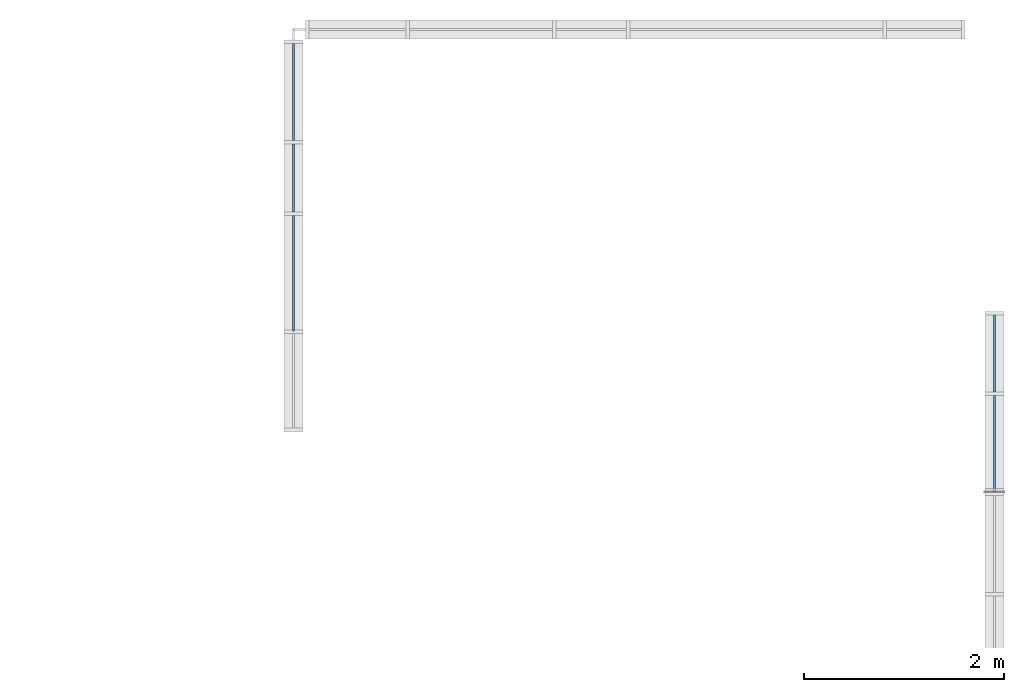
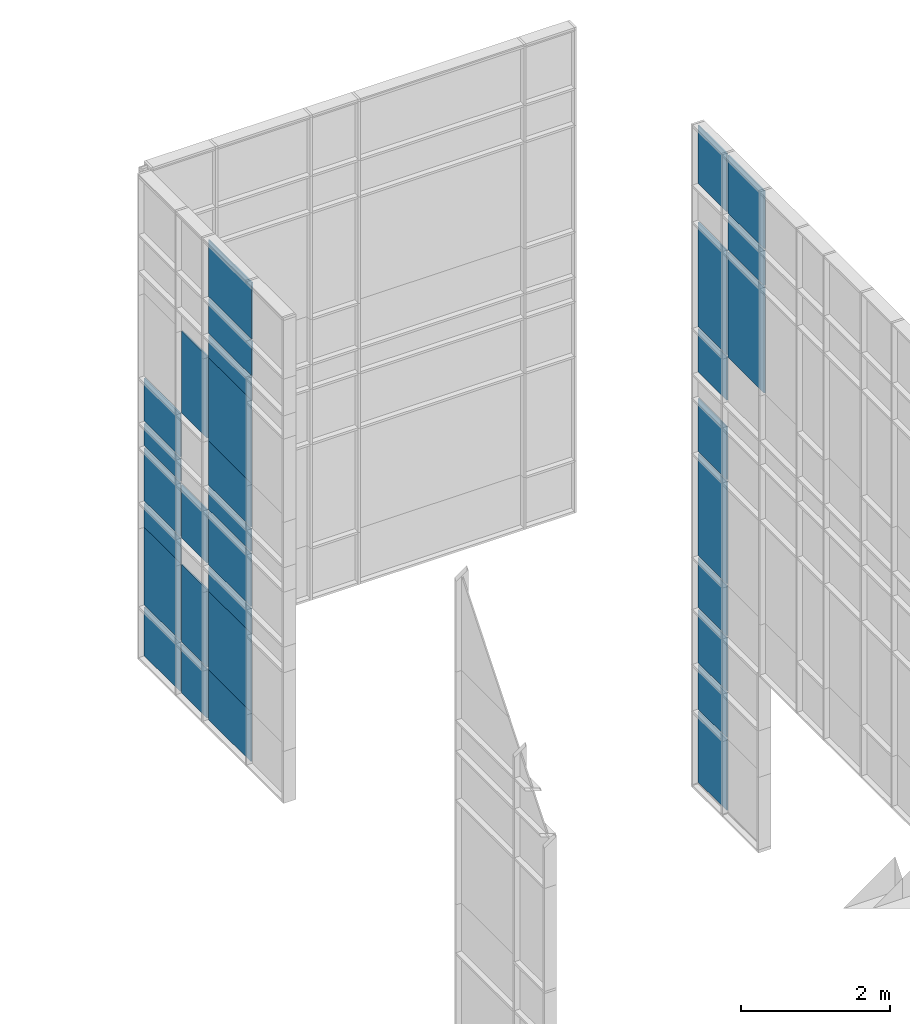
# One storey, part 35 of 73: 32 plates, 2 elements without a shape of their own.
"""IFC2X3 building model written with IfcOpenShell, lengths in millimetres."""

from ifc_helpers import new_model, entity, si_unit, converted_unit, derived_unit, direction, frame, origin, origin_2d_with_axis, place, context, subcontext, project, spatial, rectangle, extrude, source, transform, mapped, material, layer, layer_set, layer_usage, type_object, type_shapes, element, aggregate, save


model = new_model("IFC2X3")

# Units and contexts
model_context = context("Model", 3, precision=0.01, world=origin(), true_north=direction((6.12303176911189e-17, 1.0)))
body_context = subcontext(model_context, "Body", "Model", "MODEL_VIEW")
ifc_project = project(units=[si_unit("LENGTHUNIT", "METRE", prefix="MILLI"), si_unit("AREAUNIT", "SQUARE_METRE"), si_unit("VOLUMEUNIT", "CUBIC_METRE"), converted_unit("PLANEANGLEUNIT", "DEGREE", entity("IfcRatioMeasure", 0.0174532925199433), si_unit("PLANEANGLEUNIT", "RADIAN"), dimensions=[0, 0, 0, 0, 0, 0, 0]), si_unit("MASSUNIT", "GRAM", prefix="KILO"), derived_unit("MASSDENSITYUNIT", [(si_unit("MASSUNIT", "GRAM", prefix="KILO"), 1), (si_unit("LENGTHUNIT", "METRE"), -3)]), si_unit("TIMEUNIT", "SECOND"), si_unit("FREQUENCYUNIT", "HERTZ"), si_unit("THERMODYNAMICTEMPERATUREUNIT", "DEGREE_CELSIUS"), derived_unit("THERMALTRANSMITTANCEUNIT", [(si_unit("MASSUNIT", "GRAM", prefix="KILO"), 1), (si_unit("THERMODYNAMICTEMPERATUREUNIT", "KELVIN"), -1), (si_unit("TIMEUNIT", "SECOND"), -3)]), derived_unit("VOLUMETRICFLOWRATEUNIT", [(si_unit("LENGTHUNIT", "METRE"), 3), (si_unit("TIMEUNIT", "SECOND"), -1)]), si_unit("ELECTRICCURRENTUNIT", "AMPERE"), si_unit("ELECTRICVOLTAGEUNIT", "VOLT"), si_unit("POWERUNIT", "WATT"), si_unit("FORCEUNIT", "NEWTON", prefix="KILO"), si_unit("ILLUMINANCEUNIT", "LUX"), si_unit("LUMINOUSFLUXUNIT", "LUMEN"), si_unit("LUMINOUSINTENSITYUNIT", "CANDELA"), derived_unit("USERDEFINED", [(si_unit("MASSUNIT", "GRAM", prefix="KILO"), -1), (si_unit("LENGTHUNIT", "METRE"), -2), (si_unit("TIMEUNIT", "SECOND"), 3), (si_unit("LUMINOUSFLUXUNIT", "LUMEN"), 1)]), derived_unit("LINEARVELOCITYUNIT", [(si_unit("LENGTHUNIT", "METRE"), 1), (si_unit("TIMEUNIT", "SECOND"), -1)]), si_unit("PRESSUREUNIT", "PASCAL"), derived_unit("USERDEFINED", [(si_unit("LENGTHUNIT", "METRE"), -2), (si_unit("MASSUNIT", "GRAM", prefix="KILO"), 1), (si_unit("TIMEUNIT", "SECOND"), -2)])], contexts=[model_context])

# Site, building, storey
site_placement = place(None, frame((-151.875543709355, 2715.0, 0.0)))
site = spatial("IfcSite", under=ifc_project, at=site_placement, Name="Surface", CompositionType="ELEMENT")
building_placement = place(site_placement, origin())
building = spatial("IfcBuilding", under=site, at=building_placement, CompositionType="ELEMENT")
storey_placement = place(building_placement, frame((0.0, 0.0, 6730.43000000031)))
storey = spatial("IfcBuildingStorey", under=building, at=storey_placement, Name="3 korrus", CompositionType="ELEMENT", Elevation=6730.43000000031)

# Curtain wall, plates
curtain_wall_type_1 = type_object("IfcCurtainWallType", Name="Curtain Wall:Klaasfassaad", PredefinedType="NOTDEFINED")
curtain_wall_1_placement = place(storey_placement, frame((0.0, 0.0, -6730.43000000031)))
curtain_wall_1 = element("IfcCurtainWall", 1, at=curtain_wall_1_placement, inside=storey, type_object=curtain_wall_type_1, Name="Curtain Wall:Klaasfassaad", ObjectType="Curtain Wall:Klaasfassaad")
ifc_material = material(Name="<Unnamed>")
ifc_layer = layer(ifc_material, 20.0)
ifc_layer_set = layer_set([ifc_layer], Name="Curtain Wall:Klaassein KLS-01")
ifc_layer_usage_1 = layer_usage(ifc_layer_set, "AXIS3", "POSITIVE", 0.0)
plate_type_1 = type_object("IfcPlateType", Name="Glazed", PredefinedType="CURTAIN_PANEL", material=ifc_layer_set)
shared_shape_1 = source(origin(), body_context, "Body", "SweptSolid", [
    extrude(rectangle(XDim=20.0, YDim=767.500000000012, at=origin_2d_with_axis()), frame((0.0, 0.0, 0.0), z_axis=(0.0, 0.0, 1.0), x_axis=(0.0, 1.0, 0.0)), (0.0, 0.0, 1.0), 1156.92772498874),
])
type_shapes(plate_type_1, [shared_shape_1])
plate_1_placement = place(curtain_wall_1_placement, frame((38701.6162681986, 23391.7504565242, 1040.00001468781), z_axis=(0.0, 0.0, 1.0), x_axis=(0.0, 1.0, 0.0)))
plate_1 = element("IfcPlate", 2, at=plate_1_placement, type_object=plate_type_1, material=ifc_layer_usage_1, Name="System Panel:Glazed", ObjectType="Glazed", context=body_context, shape_type="MappedRepresentation", body=[
    mapped(shared_shape_1, transform((0.0, 0.0, 0.0), scale=1.0)),
])
ifc_layer_usage_2 = layer_usage(ifc_layer_set, "AXIS3", "POSITIVE", 0.0)
plate_type_2 = type_object("IfcPlateType", Name="Glazed", PredefinedType="CURTAIN_PANEL", material=ifc_layer_set)
shared_shape_2 = source(origin(), body_context, "Body", "SweptSolid", [
    extrude(rectangle(XDim=20.0, YDim=767.500000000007, at=origin_2d_with_axis()), frame((0.0, 0.0, 0.0), z_axis=(0.0, 0.0, 1.0), x_axis=(0.0, 1.0, 0.0)), (0.0, 0.0, 1.0), 725.0),
])
type_shapes(plate_type_2, [shared_shape_2])
plate_2_placement = place(curtain_wall_1_placement, frame((38701.6162681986, 23391.7504565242, 2231.92773967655), z_axis=(0.0, 0.0, 1.0), x_axis=(0.0, 1.0, 0.0)))
plate_2 = element("IfcPlate", 3, at=plate_2_placement, type_object=plate_type_2, material=ifc_layer_usage_2, Name="System Panel:Glazed", ObjectType="Glazed", context=body_context, shape_type="MappedRepresentation", body=[
    mapped(shared_shape_2, transform((0.0, 0.0, 0.0), scale=1.0)),
])
ifc_layer_usage_3 = layer_usage(ifc_layer_set, "AXIS3", "POSITIVE", 0.0)
plate_type_3 = type_object("IfcPlateType", Name="Glazed", PredefinedType="CURTAIN_PANEL", material=ifc_layer_set)
shared_shape_3 = source(origin(), body_context, "Body", "SweptSolid", [
    extrude(rectangle(XDim=20.0, YDim=767.500000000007, at=origin_2d_with_axis()), frame((0.0, 0.0, 0.0), z_axis=(0.0, 0.0, 1.0), x_axis=(0.0, 1.0, 0.0)), (0.0, 0.0, 1.0), 865.0),
])
type_shapes(plate_type_3, [shared_shape_3])
plate_3_placement = place(curtain_wall_1_placement, frame((38701.6162681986, 23391.7504565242, 2991.92773967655), z_axis=(0.0, 0.0, 1.0), x_axis=(0.0, 1.0, 0.0)))
plate_3 = element("IfcPlate", 4, at=plate_3_placement, type_object=plate_type_3, material=ifc_layer_usage_3, Name="System Panel:Glazed", ObjectType="Glazed", context=body_context, shape_type="MappedRepresentation", body=[
    mapped(shared_shape_3, transform((0.0, 0.0, 0.0), scale=1.0)),
])
ifc_layer_usage_4 = layer_usage(ifc_layer_set, "AXIS3", "POSITIVE", 0.0)
plate_4_placement = place(curtain_wall_1_placement, frame((38701.6162681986, 23391.7504565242, 6442.40692901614), z_axis=(0.0, 0.0, 1.0), x_axis=(0.0, 1.0, 0.0)))
plate_4 = element("IfcPlate", 5, at=plate_4_placement, type_object=plate_type_3, material=ifc_layer_usage_4, Name="System Panel:Glazed", ObjectType="Glazed", context=body_context, shape_type="MappedRepresentation", body=[
    mapped(shared_shape_3, transform((0.0, 0.0, 0.0), scale=1.0)),
])
ifc_layer_usage_5 = layer_usage(ifc_layer_set, "AXIS3", "POSITIVE", 0.0)
plate_type_4 = type_object("IfcPlateType", Name="Glazed", PredefinedType="CURTAIN_PANEL", material=ifc_layer_set)
shared_shape_4 = source(origin(), body_context, "Body", "SweptSolid", [
    extrude(rectangle(XDim=20.0, YDim=767.500000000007, at=origin_2d_with_axis()), frame((0.0, 0.0, 0.0), z_axis=(0.0, 0.0, 1.0), x_axis=(0.0, 1.0, 0.0)), (0.0, 0.0, 1.0), 815.159729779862),
])
type_shapes(plate_type_4, [shared_shape_4])
plate_5_placement = place(curtain_wall_1_placement, frame((38701.6162681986, 23391.7504565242, 3891.92773967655), z_axis=(0.0, 0.0, 1.0), x_axis=(0.0, 1.0, 0.0)))
plate_5 = element("IfcPlate", 6, at=plate_5_placement, type_object=plate_type_4, material=ifc_layer_usage_5, Name="System Panel:Glazed", ObjectType="Glazed", context=body_context, shape_type="MappedRepresentation", body=[
    mapped(shared_shape_4, transform((0.0, 0.0, 0.0), scale=1.0)),
])
ifc_layer_usage_6 = layer_usage(ifc_layer_set, "AXIS3", "POSITIVE", 0.0)
plate_type_5 = type_object("IfcPlateType", Name="Glazed", PredefinedType="CURTAIN_PANEL", material=ifc_layer_set)
shared_shape_5 = source(origin(), body_context, "Body", "SweptSolid", [
    extrude(rectangle(XDim=20.0, YDim=767.500000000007, at=origin_2d_with_axis()), frame((0.0, 0.0, 0.0), z_axis=(0.0, 0.0, 1.0), x_axis=(0.0, 1.0, 0.0)), (0.0, 0.0, 1.0), 1665.31945955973),
])
type_shapes(plate_type_5, [shared_shape_5])
plate_6_placement = place(curtain_wall_1_placement, frame((38701.6162681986, 23391.7504565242, 4742.08746945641), z_axis=(0.0, 0.0, 1.0), x_axis=(0.0, 1.0, 0.0)))
plate_6 = element("IfcPlate", 7, at=plate_6_placement, type_object=plate_type_5, material=ifc_layer_usage_6, Name="System Panel:Glazed", ObjectType="Glazed", context=body_context, shape_type="MappedRepresentation", body=[
    mapped(shared_shape_5, transform((0.0, 0.0, 0.0), scale=1.0)),
])
ifc_layer_usage_7 = layer_usage(ifc_layer_set, "AXIS3", "POSITIVE", 0.0)
plate_type_6 = type_object("IfcPlateType", Name="Glazed", PredefinedType="CURTAIN_PANEL", material=ifc_layer_set)
shared_shape_6 = source(origin(), body_context, "Body", "SweptSolid", [
    extrude(rectangle(XDim=20.0, YDim=767.500000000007, at=origin_2d_with_axis()), frame((0.0, 0.0, 0.0), z_axis=(0.0, 0.0, 1.0), x_axis=(0.0, 1.0, 0.0)), (0.0, 0.0, 1.0), 705.0),
])
type_shapes(plate_type_6, [shared_shape_6])
plate_7_placement = place(curtain_wall_1_placement, frame((38701.6162681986, 23391.7504565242, 7742.40692901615), z_axis=(0.0, 0.0, 1.0), x_axis=(0.0, 1.0, 0.0)))
plate_7 = element("IfcPlate", 8, at=plate_7_placement, type_object=plate_type_6, material=ifc_layer_usage_7, Name="System Panel:Glazed", ObjectType="Glazed", context=body_context, shape_type="MappedRepresentation", body=[
    mapped(shared_shape_6, transform((0.0, 0.0, 0.0), scale=1.0)),
])
ifc_layer_usage_8 = layer_usage(ifc_layer_set, "AXIS3", "POSITIVE", 0.0)
plate_type_7 = type_object("IfcPlateType", Name="Glazed", PredefinedType="CURTAIN_PANEL", material=ifc_layer_set)
shared_shape_7 = source(origin(), body_context, "Body", "SweptSolid", [
    extrude(rectangle(XDim=20.0, YDim=964.999999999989, at=origin_2d_with_axis()), frame((0.0, 0.0, 0.0), z_axis=(0.0, 0.0, 1.0), x_axis=(0.0, 1.0, 0.0)), (0.0, 0.0, 1.0), 1722.5),
])
type_shapes(plate_type_7, [shared_shape_7])
plate_8_placement = place(curtain_wall_1_placement, frame((38701.6162681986, 22490.5004565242, 8464.90692901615), z_axis=(0.0, 0.0, 1.0), x_axis=(0.0, 1.0, 0.0)))
plate_8 = element("IfcPlate", 9, at=plate_8_placement, type_object=plate_type_7, material=ifc_layer_usage_8, Name="System Panel:Glazed", ObjectType="Glazed", context=body_context, shape_type="MappedRepresentation", body=[
    mapped(shared_shape_7, transform((0.0, 0.0, 0.0), scale=1.0)),
])
ifc_layer_usage_9 = layer_usage(ifc_layer_set, "AXIS3", "POSITIVE", 0.0)
plate_type_8 = type_object("IfcPlateType", Name="Glazed", PredefinedType="CURTAIN_PANEL", material=ifc_layer_set)
shared_shape_8 = source(origin(), body_context, "Body", "SweptSolid", [
    extrude(rectangle(XDim=20.0, YDim=767.500000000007, at=origin_2d_with_axis()), frame((0.0, 0.0, 0.0), z_axis=(0.0, 0.0, 1.0), x_axis=(0.0, 1.0, 0.0)), (0.0, 0.0, 1.0), 1705.0),
])
type_shapes(plate_type_8, [shared_shape_8])
plate_9_placement = place(curtain_wall_1_placement, frame((38701.6162681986, 23391.7504565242, 8482.40692901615), z_axis=(0.0, 0.0, 1.0), x_axis=(0.0, 1.0, 0.0)))
plate_9 = element("IfcPlate", 10, at=plate_9_placement, type_object=plate_type_8, material=ifc_layer_usage_9, Name="System Panel:Glazed", ObjectType="Glazed", context=body_context, shape_type="MappedRepresentation", body=[
    mapped(shared_shape_8, transform((0.0, 0.0, 0.0), scale=1.0)),
])
ifc_layer_usage_10 = layer_usage(ifc_layer_set, "AXIS3", "POSITIVE", 0.0)
plate_type_9 = type_object("IfcPlateType", Name="Glazed", PredefinedType="CURTAIN_PANEL", material=ifc_layer_set)
shared_shape_9 = source(origin(), body_context, "Body", "SweptSolid", [
    extrude(rectangle(XDim=20.0, YDim=964.999999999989, at=origin_2d_with_axis()), frame((0.0, 0.0, 0.0), z_axis=(0.0, 0.0, 1.0), x_axis=(0.0, 1.0, 0.0)), (0.0, 0.0, 1.0), 564.999999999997),
])
type_shapes(plate_type_9, [shared_shape_9])
plate_10_placement = place(curtain_wall_1_placement, frame((38701.6162681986, 22490.5004565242, 10222.4069290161), z_axis=(0.0, 0.0, 1.0), x_axis=(0.0, 1.0, 0.0)))
plate_10 = element("IfcPlate", 11, at=plate_10_placement, type_object=plate_type_9, material=ifc_layer_usage_10, Name="System Panel:Glazed", ObjectType="Glazed", context=body_context, shape_type="MappedRepresentation", body=[
    mapped(shared_shape_9, transform((0.0, 0.0, 0.0), scale=1.0)),
])
ifc_layer_usage_11 = layer_usage(ifc_layer_set, "AXIS3", "POSITIVE", 0.0)
plate_type_10 = type_object("IfcPlateType", Name="Glazed", PredefinedType="CURTAIN_PANEL", material=ifc_layer_set)
shared_shape_10 = source(origin(), body_context, "Body", "SweptSolid", [
    extrude(rectangle(XDim=20.0, YDim=964.999999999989, at=origin_2d_with_axis()), frame((0.0, 0.0, 0.0), z_axis=(0.0, 0.0, 1.0), x_axis=(0.0, 1.0, 0.0)), (0.0, 0.0, 1.0), 947.500000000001),
])
type_shapes(plate_type_10, [shared_shape_10])
plate_11_placement = place(curtain_wall_1_placement, frame((38701.6162681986, 22490.5004565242, 10822.4069290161), z_axis=(0.0, 0.0, 1.0), x_axis=(0.0, 1.0, 0.0)))
plate_11 = element("IfcPlate", 12, at=plate_11_placement, type_object=plate_type_10, material=ifc_layer_usage_11, Name="System Panel:Glazed", ObjectType="Glazed", context=body_context, shape_type="MappedRepresentation", body=[
    mapped(shared_shape_10, transform((0.0, 0.0, 0.0), scale=1.0)),
])
ifc_layer_usage_12 = layer_usage(ifc_layer_set, "AXIS3", "POSITIVE", 0.0)
plate_type_11 = type_object("IfcPlateType", Name="Glazed", PredefinedType="CURTAIN_PANEL", material=ifc_layer_set)
shared_shape_11 = source(origin(), body_context, "Body", "SweptSolid", [
    extrude(rectangle(XDim=20.0, YDim=767.500000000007, at=origin_2d_with_axis()), frame((0.0, 0.0, 0.0), z_axis=(0.0, 0.0, 1.0), x_axis=(0.0, 1.0, 0.0)), (0.0, 0.0, 1.0), 947.500000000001),
])
type_shapes(plate_type_11, [shared_shape_11])
plate_12_placement = place(curtain_wall_1_placement, frame((38701.6162681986, 23391.7504565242, 10822.4069290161), z_axis=(0.0, 0.0, 1.0), x_axis=(0.0, 1.0, 0.0)))
plate_12 = element("IfcPlate", 13, at=plate_12_placement, type_object=plate_type_11, material=ifc_layer_usage_12, Name="System Panel:Glazed", ObjectType="Glazed", context=body_context, shape_type="MappedRepresentation", body=[
    mapped(shared_shape_11, transform((0.0, 0.0, 0.0), scale=1.0)),
])
aggregate(curtain_wall_1, [plate_1, plate_2, plate_3, plate_5, plate_6, plate_4, plate_7, plate_8, plate_9, plate_10, plate_11, plate_12])

curtain_wall_type_2 = type_object("IfcCurtainWallType", Name="Curtain Wall:Klaasfassaad2", PredefinedType="NOTDEFINED")
curtain_wall_2_placement = place(storey_placement, frame((0.0, 0.0, -6730.43000000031)))
curtain_wall_2 = element("IfcCurtainWall", 14, at=curtain_wall_2_placement, inside=storey, type_object=curtain_wall_type_2, Name="Curtain Wall:Klaasfassaad2", ObjectType="Curtain Wall:Klaasfassaad2")
ifc_layer_usage_13 = layer_usage(ifc_layer_set, "AXIS3", "POSITIVE", 0.0)
plate_type_12 = type_object("IfcPlateType", Name="Glazed", PredefinedType="CURTAIN_PANEL", material=ifc_layer_set)
shared_shape_12 = source(origin(), body_context, "Body", "SweptSolid", [
    extrude(rectangle(XDim=20.0, YDim=964.999999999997, at=origin_2d_with_axis()), frame((0.0, 0.0, 0.0), z_axis=(0.0, 0.0, 1.0), x_axis=(0.0, 1.0, 0.0)), (0.0, 0.0, 1.0), 797.659729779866),
])
type_shapes(plate_type_12, [shared_shape_12])
plate_13_placement = place(curtain_wall_2_placement, frame((31707.6162682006, 26001.1813631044, 3909.42773967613), z_axis=(0.0, 0.0, 1.0), x_axis=(0.0, 1.0, 0.0)))
plate_13 = element("IfcPlate", 15, at=plate_13_placement, type_object=plate_type_12, material=ifc_layer_usage_13, Name="System Panel:Glazed", ObjectType="Glazed", context=body_context, shape_type="MappedRepresentation", body=[
    mapped(shared_shape_12, transform((0.0, 0.0, 0.0), scale=1.0)),
])
ifc_layer_usage_14 = layer_usage(ifc_layer_set, "AXIS3", "POSITIVE", 0.0)
plate_type_13 = type_object("IfcPlateType", Name="Glazed", PredefinedType="CURTAIN_PANEL", material=ifc_layer_set)
shared_shape_13 = source(origin(), body_context, "Body", "SweptSolid", [
    extrude(rectangle(XDim=20.0, YDim=964.999999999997, at=origin_2d_with_axis()), frame((0.0, 0.0, 0.0), z_axis=(0.0, 0.0, 1.0), x_axis=(0.0, 1.0, 0.0)), (0.0, 0.0, 1.0), 865.000000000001),
])
type_shapes(plate_type_13, [shared_shape_13])
plate_14_placement = place(curtain_wall_2_placement, frame((31707.6162682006, 26001.1813631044, 6442.40692901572), z_axis=(0.0, 0.0, 1.0), x_axis=(0.0, 1.0, 0.0)))
plate_14 = element("IfcPlate", 16, at=plate_14_placement, type_object=plate_type_13, material=ifc_layer_usage_14, Name="System Panel:Glazed", ObjectType="Glazed", context=body_context, shape_type="MappedRepresentation", body=[
    mapped(shared_shape_13, transform((0.0, 0.0, 0.0), scale=1.0)),
])
ifc_layer_usage_15 = layer_usage(ifc_layer_set, "AXIS3", "POSITIVE", 0.0)
plate_type_14 = type_object("IfcPlateType", Name="Glazed", PredefinedType="CURTAIN_PANEL", material=ifc_layer_set)
shared_shape_14 = source(origin(), body_context, "Body", "SweptSolid", [
    extrude(rectangle(XDim=20.0, YDim=964.999999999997, at=origin_2d_with_axis()), frame((0.0, 0.0, 0.0), z_axis=(0.0, 0.0, 1.0), x_axis=(0.0, 1.0, 0.0)), (0.0, 0.0, 1.0), 365.0),
])
type_shapes(plate_type_14, [shared_shape_14])
plate_15_placement = place(curtain_wall_2_placement, frame((31707.6162682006, 26001.1813631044, 7342.40692901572), z_axis=(0.0, 0.0, 1.0), x_axis=(0.0, 1.0, 0.0)))
plate_15 = element("IfcPlate", 17, at=plate_15_placement, type_object=plate_type_14, material=ifc_layer_usage_15, Name="System Panel:Glazed", ObjectType="Glazed", context=body_context, shape_type="MappedRepresentation", body=[
    mapped(shared_shape_14, transform((0.0, 0.0, 0.0), scale=1.0)),
])
ifc_layer_usage_16 = layer_usage(ifc_layer_set, "AXIS3", "POSITIVE", 0.0)
plate_type_15 = type_object("IfcPlateType", Name="Glazed", PredefinedType="CURTAIN_PANEL", material=ifc_layer_set)
shared_shape_15 = source(origin(), body_context, "Body", "SweptSolid", [
    extrude(rectangle(XDim=20.0, YDim=964.999999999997, at=origin_2d_with_axis()), frame((0.0, 0.0, 0.0), z_axis=(0.0, 0.0, 1.0), x_axis=(0.0, 1.0, 0.0)), (0.0, 0.0, 1.0), 705.000000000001),
])
type_shapes(plate_type_15, [shared_shape_15])
plate_16_placement = place(curtain_wall_2_placement, frame((31707.6162682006, 26001.1813631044, 7742.40692901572), z_axis=(0.0, 0.0, 1.0), x_axis=(0.0, 1.0, 0.0)))
plate_16 = element("IfcPlate", 18, at=plate_16_placement, type_object=plate_type_15, material=ifc_layer_usage_16, Name="System Panel:Glazed", ObjectType="Glazed", context=body_context, shape_type="MappedRepresentation", body=[
    mapped(shared_shape_15, transform((0.0, 0.0, 0.0), scale=1.0)),
])
ifc_layer_usage_17 = layer_usage(ifc_layer_set, "AXIS3", "POSITIVE", 0.0)
plate_type_16 = type_object("IfcPlateType", Name="Glazed", PredefinedType="CURTAIN_PANEL", material=ifc_layer_set)
shared_shape_16 = source(origin(), body_context, "Body", "SweptSolid", [
    extrude(rectangle(XDim=20.0, YDim=1141.18136310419, at=origin_2d_with_axis()), frame((0.0, 0.0, 0.0), z_axis=(0.0, 0.0, 1.0), x_axis=(0.0, 1.0, 0.0)), (0.0, 0.0, 1.0), 815.159729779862),
])
type_shapes(plate_type_16, [shared_shape_16])
plate_17_placement = place(curtain_wall_2_placement, frame((31707.6162682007, 24198.0906815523, 3909.42773967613), z_axis=(0.0, 0.0, 1.0), x_axis=(0.0, 1.0, 0.0)))
plate_17 = element("IfcPlate", 19, at=plate_17_placement, type_object=plate_type_16, material=ifc_layer_usage_17, Name="System Panel:Glazed", ObjectType="Glazed", context=body_context, shape_type="MappedRepresentation", body=[
    mapped(shared_shape_16, transform((0.0, 0.0, 0.0), scale=1.0)),
])
ifc_layer_usage_18 = layer_usage(ifc_layer_set, "AXIS3", "POSITIVE", 0.0)
plate_type_17 = type_object("IfcPlateType", Name="Glazed", PredefinedType="CURTAIN_PANEL", material=ifc_layer_set)
shared_shape_17 = source(origin(), body_context, "Body", "SweptSolid", [
    extrude(rectangle(XDim=20.0, YDim=679.999999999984, at=origin_2d_with_axis()), frame((0.0, 0.0, 0.0), z_axis=(0.0, 0.0, 1.0), x_axis=(0.0, 1.0, 0.0)), (0.0, 0.0, 1.0), 797.659729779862),
])
type_shapes(plate_type_17, [shared_shape_17])
plate_18_placement = place(curtain_wall_2_placement, frame((31707.6162682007, 25143.6813631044, 3909.42773967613), z_axis=(0.0, 0.0, 1.0), x_axis=(0.0, 1.0, 0.0)))
plate_18 = element("IfcPlate", 20, at=plate_18_placement, type_object=plate_type_17, material=ifc_layer_usage_18, Name="System Panel:Glazed", ObjectType="Glazed", context=body_context, shape_type="MappedRepresentation", body=[
    mapped(shared_shape_17, transform((0.0, 0.0, 0.0), scale=1.0)),
])
ifc_layer_usage_19 = layer_usage(ifc_layer_set, "AXIS3", "POSITIVE", 0.0)
plate_type_18 = type_object("IfcPlateType", Name="Glazed", PredefinedType="CURTAIN_PANEL", material=ifc_layer_set)
shared_shape_18 = source(origin(), body_context, "Body", "SweptSolid", [
    extrude(rectangle(XDim=20.0, YDim=1141.18136310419, at=origin_2d_with_axis()), frame((0.0, 0.0, 0.0), z_axis=(0.0, 0.0, 1.0), x_axis=(0.0, 1.0, 0.0)), (0.0, 0.0, 1.0), 1284.84027022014),
])
type_shapes(plate_type_18, [shared_shape_18])
plate_19_placement = place(curtain_wall_2_placement, frame((31707.6162682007, 24198.0906815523, 4724.58746945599), z_axis=(0.0, 0.0, 1.0), x_axis=(0.0, 1.0, 0.0)))
plate_19 = element("IfcPlate", 21, at=plate_19_placement, type_object=plate_type_18, material=ifc_layer_usage_19, Name="System Panel:Glazed", ObjectType="Glazed", context=body_context, shape_type="MappedRepresentation", body=[
    mapped(shared_shape_18, transform((0.0, 0.0, 0.0), scale=1.0)),
])
ifc_layer_usage_20 = layer_usage(ifc_layer_set, "AXIS3", "POSITIVE", 0.0)
plate_type_19 = type_object("IfcPlateType", Name="Glazed", PredefinedType="CURTAIN_PANEL", material=ifc_layer_set)
shared_shape_19 = source(origin(), body_context, "Body", "SweptSolid", [
    extrude(rectangle(XDim=20.0, YDim=679.999999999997, at=origin_2d_with_axis()), frame((0.0, 0.0, 0.0), z_axis=(0.0, 0.0, 1.0), x_axis=(0.0, 1.0, 0.0)), (0.0, 0.0, 1.0), 1267.34027022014),
])
type_shapes(plate_type_19, [shared_shape_19])
plate_20_placement = place(curtain_wall_2_placement, frame((31707.6162682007, 25143.6813631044, 4742.08746945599), z_axis=(0.0, 0.0, 1.0), x_axis=(0.0, 1.0, 0.0)))
plate_20 = element("IfcPlate", 22, at=plate_20_placement, type_object=plate_type_19, material=ifc_layer_usage_20, Name="System Panel:Glazed", ObjectType="Glazed", context=body_context, shape_type="MappedRepresentation", body=[
    mapped(shared_shape_19, transform((0.0, 0.0, 0.0), scale=1.0)),
])
ifc_layer_usage_21 = layer_usage(ifc_layer_set, "AXIS3", "POSITIVE", 0.0)
plate_type_20 = type_object("IfcPlateType", Name="Glazed", PredefinedType="CURTAIN_PANEL", material=ifc_layer_set)
shared_shape_20 = source(origin(), body_context, "Body", "SweptSolid", [
    extrude(rectangle(XDim=20.0, YDim=964.999999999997, at=origin_2d_with_axis()), frame((0.0, 0.0, 0.0), z_axis=(0.0, 0.0, 1.0), x_axis=(0.0, 1.0, 0.0)), (0.0, 0.0, 1.0), 1267.34027022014),
])
type_shapes(plate_type_20, [shared_shape_20])
plate_21_placement = place(curtain_wall_2_placement, frame((31707.6162682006, 26001.1813631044, 4742.08746945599), z_axis=(0.0, 0.0, 1.0), x_axis=(0.0, 1.0, 0.0)))
plate_21 = element("IfcPlate", 23, at=plate_21_placement, type_object=plate_type_20, material=ifc_layer_usage_21, Name="System Panel:Glazed", ObjectType="Glazed", context=body_context, shape_type="MappedRepresentation", body=[
    mapped(shared_shape_20, transform((0.0, 0.0, 0.0), scale=1.0)),
])
ifc_layer_usage_22 = layer_usage(ifc_layer_set, "AXIS3", "POSITIVE", 0.0)
plate_type_21 = type_object("IfcPlateType", Name="Glazed", PredefinedType="CURTAIN_PANEL", material=ifc_layer_set)
shared_shape_21 = source(origin(), body_context, "Body", "SweptSolid", [
    extrude(rectangle(XDim=20.0, YDim=1141.18136310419, at=origin_2d_with_axis()), frame((0.0, 0.0, 0.0), z_axis=(0.0, 0.0, 1.0), x_axis=(0.0, 1.0, 0.0)), (0.0, 0.0, 1.0), 397.979189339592),
])
type_shapes(plate_type_21, [shared_shape_21])
plate_22_placement = place(curtain_wall_2_placement, frame((31707.6162682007, 24198.0906815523, 6009.42773967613), z_axis=(0.0, 0.0, 1.0), x_axis=(0.0, 1.0, 0.0)))
plate_22 = element("IfcPlate", 24, at=plate_22_placement, type_object=plate_type_21, material=ifc_layer_usage_22, Name="System Panel:Glazed", ObjectType="Glazed", context=body_context, shape_type="MappedRepresentation", body=[
    mapped(shared_shape_21, transform((0.0, 0.0, 0.0), scale=1.0)),
])
ifc_layer_usage_23 = layer_usage(ifc_layer_set, "AXIS3", "POSITIVE", 0.0)
plate_type_22 = type_object("IfcPlateType", Name="Glazed", PredefinedType="CURTAIN_PANEL", material=ifc_layer_set)
shared_shape_22 = source(origin(), body_context, "Body", "SweptSolid", [
    extrude(rectangle(XDim=20.0, YDim=964.999999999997, at=origin_2d_with_axis()), frame((0.0, 0.0, 0.0), z_axis=(0.0, 0.0, 1.0), x_axis=(0.0, 1.0, 0.0)), (0.0, 0.0, 1.0), 397.979189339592),
])
type_shapes(plate_type_22, [shared_shape_22])
plate_23_placement = place(curtain_wall_2_placement, frame((31707.6162682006, 26001.1813631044, 6009.42773967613), z_axis=(0.0, 0.0, 1.0), x_axis=(0.0, 1.0, 0.0)))
plate_23 = element("IfcPlate", 25, at=plate_23_placement, type_object=plate_type_22, material=ifc_layer_usage_23, Name="System Panel:Glazed", ObjectType="Glazed", context=body_context, shape_type="MappedRepresentation", body=[
    mapped(shared_shape_22, transform((0.0, 0.0, 0.0), scale=1.0)),
])
ifc_layer_usage_24 = layer_usage(ifc_layer_set, "AXIS3", "POSITIVE", 0.0)
plate_type_23 = type_object("IfcPlateType", Name="Glazed", PredefinedType="CURTAIN_PANEL", material=ifc_layer_set)
shared_shape_23 = source(origin(), body_context, "Body", "SweptSolid", [
    extrude(rectangle(XDim=20.0, YDim=1141.18136310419, at=origin_2d_with_axis()), frame((0.0, 0.0, 0.0), z_axis=(0.0, 0.0, 1.0), x_axis=(0.0, 1.0, 0.0)), (0.0, 0.0, 1.0), 865.0),
])
type_shapes(plate_type_23, [shared_shape_23])
plate_24_placement = place(curtain_wall_2_placement, frame((31707.6162682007, 24198.0906815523, 6442.40692901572), z_axis=(0.0, 0.0, 1.0), x_axis=(0.0, 1.0, 0.0)))
plate_24 = element("IfcPlate", 26, at=plate_24_placement, type_object=plate_type_23, material=ifc_layer_usage_24, Name="System Panel:Glazed", ObjectType="Glazed", context=body_context, shape_type="MappedRepresentation", body=[
    mapped(shared_shape_23, transform((0.0, 0.0, 0.0), scale=1.0)),
])
ifc_layer_usage_25 = layer_usage(ifc_layer_set, "AXIS3", "POSITIVE", 0.0)
plate_type_24 = type_object("IfcPlateType", Name="Glazed", PredefinedType="CURTAIN_PANEL", material=ifc_layer_set)
shared_shape_24 = source(origin(), body_context, "Body", "SweptSolid", [
    extrude(rectangle(XDim=20.0, YDim=679.999999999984, at=origin_2d_with_axis()), frame((0.0, 0.0, 0.0), z_axis=(0.0, 0.0, 1.0), x_axis=(0.0, 1.0, 0.0)), (0.0, 0.0, 1.0), 864.999999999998),
])
type_shapes(plate_type_24, [shared_shape_24])
plate_25_placement = place(curtain_wall_2_placement, frame((31707.6162682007, 25143.6813631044, 6442.40692901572), z_axis=(0.0, 0.0, 1.0), x_axis=(0.0, 1.0, 0.0)))
plate_25 = element("IfcPlate", 27, at=plate_25_placement, type_object=plate_type_24, material=ifc_layer_usage_25, Name="System Panel:Glazed", ObjectType="Glazed", context=body_context, shape_type="MappedRepresentation", body=[
    mapped(shared_shape_24, transform((0.0, 0.0, 0.0), scale=1.0)),
])
ifc_layer_usage_26 = layer_usage(ifc_layer_set, "AXIS3", "POSITIVE", 0.0)
plate_type_25 = type_object("IfcPlateType", Name="Glazed", PredefinedType="CURTAIN_PANEL", material=ifc_layer_set)
shared_shape_25 = source(origin(), body_context, "Body", "SweptSolid", [
    extrude(rectangle(XDim=20.0, YDim=1141.18136310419, at=origin_2d_with_axis()), frame((0.0, 0.0, 0.0), z_axis=(0.0, 0.0, 1.0), x_axis=(0.0, 1.0, 0.0)), (0.0, 0.0, 1.0), 365.0),
])
type_shapes(plate_type_25, [shared_shape_25])
plate_26_placement = place(curtain_wall_2_placement, frame((31707.6162682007, 24198.0906815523, 7342.40692901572), z_axis=(0.0, 0.0, 1.0), x_axis=(0.0, 1.0, 0.0)))
plate_26 = element("IfcPlate", 28, at=plate_26_placement, type_object=plate_type_25, material=ifc_layer_usage_26, Name="System Panel:Glazed", ObjectType="Glazed", context=body_context, shape_type="MappedRepresentation", body=[
    mapped(shared_shape_25, transform((0.0, 0.0, 0.0), scale=1.0)),
])
ifc_layer_usage_27 = layer_usage(ifc_layer_set, "AXIS3", "POSITIVE", 0.0)
plate_type_26 = type_object("IfcPlateType", Name="Glazed", PredefinedType="CURTAIN_PANEL", material=ifc_layer_set)
shared_shape_26 = source(origin(), body_context, "Body", "SweptSolid", [
    extrude(rectangle(XDim=20.0, YDim=1141.18136310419, at=origin_2d_with_axis()), frame((0.0, 0.0, 0.0), z_axis=(0.0, 0.0, 1.0), x_axis=(0.0, 1.0, 0.0)), (0.0, 0.0, 1.0), 722.5),
])
type_shapes(plate_type_26, [shared_shape_26])
plate_27_placement = place(curtain_wall_2_placement, frame((31707.6162682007, 24198.0906815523, 7742.40692901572), z_axis=(0.0, 0.0, 1.0), x_axis=(0.0, 1.0, 0.0)))
plate_27 = element("IfcPlate", 29, at=plate_27_placement, type_object=plate_type_26, material=ifc_layer_usage_27, Name="System Panel:Glazed", ObjectType="Glazed", context=body_context, shape_type="MappedRepresentation", body=[
    mapped(shared_shape_26, transform((0.0, 0.0, 0.0), scale=1.0)),
])
ifc_layer_usage_28 = layer_usage(ifc_layer_set, "AXIS3", "POSITIVE", 0.0)
plate_type_27 = type_object("IfcPlateType", Name="Glazed", PredefinedType="CURTAIN_PANEL", material=ifc_layer_set)
shared_shape_27 = source(origin(), body_context, "Body", "SweptSolid", [
    extrude(rectangle(XDim=20.0, YDim=1141.18136310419, at=origin_2d_with_axis()), frame((0.0, 0.0, 0.0), z_axis=(0.0, 0.0, 1.0), x_axis=(0.0, 1.0, 0.0)), (0.0, 0.0, 1.0), 1360.0),
])
type_shapes(plate_type_27, [shared_shape_27])
plate_28_placement = place(curtain_wall_2_placement, frame((31707.6162682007, 24198.0906815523, 8464.90692901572), z_axis=(0.0, 0.0, 1.0), x_axis=(0.0, 1.0, 0.0)))
plate_28 = element("IfcPlate", 30, at=plate_28_placement, type_object=plate_type_27, material=ifc_layer_usage_28, Name="System Panel:Glazed", ObjectType="Glazed", context=body_context, shape_type="MappedRepresentation", body=[
    mapped(shared_shape_27, transform((0.0, 0.0, 0.0), scale=1.0)),
])
ifc_layer_usage_29 = layer_usage(ifc_layer_set, "AXIS3", "POSITIVE", 0.0)
plate_type_28 = type_object("IfcPlateType", Name="Glazed", PredefinedType="CURTAIN_PANEL", material=ifc_layer_set)
shared_shape_28 = source(origin(), body_context, "Body", "SweptSolid", [
    extrude(rectangle(XDim=20.0, YDim=679.999999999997, at=origin_2d_with_axis()), frame((0.0, 0.0, 0.0), z_axis=(0.0, 0.0, 1.0), x_axis=(0.0, 1.0, 0.0)), (0.0, 0.0, 1.0), 1342.5),
])
type_shapes(plate_type_28, [shared_shape_28])
plate_29_placement = place(curtain_wall_2_placement, frame((31707.6162682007, 25143.6813631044, 8482.40692901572), z_axis=(0.0, 0.0, 1.0), x_axis=(0.0, 1.0, 0.0)))
plate_29 = element("IfcPlate", 31, at=plate_29_placement, type_object=plate_type_28, material=ifc_layer_usage_29, Name="System Panel:Glazed", ObjectType="Glazed", context=body_context, shape_type="MappedRepresentation", body=[
    mapped(shared_shape_28, transform((0.0, 0.0, 0.0), scale=1.0)),
])
ifc_layer_usage_30 = layer_usage(ifc_layer_set, "AXIS3", "POSITIVE", 0.0)
plate_type_29 = type_object("IfcPlateType", Name="Glazed", PredefinedType="CURTAIN_PANEL", material=ifc_layer_set)
shared_shape_29 = source(origin(), body_context, "Body", "SweptSolid", [
    extrude(rectangle(XDim=20.0, YDim=1141.18136310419, at=origin_2d_with_axis()), frame((0.0, 0.0, 0.0), z_axis=(0.0, 0.0, 1.0), x_axis=(0.0, 1.0, 0.0)), (0.0, 0.0, 1.0), 362.5),
])
type_shapes(plate_type_29, [shared_shape_29])
plate_30_placement = place(curtain_wall_2_placement, frame((31707.6162682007, 24198.0906815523, 9824.90692901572), z_axis=(0.0, 0.0, 1.0), x_axis=(0.0, 1.0, 0.0)))
plate_30 = element("IfcPlate", 32, at=plate_30_placement, type_object=plate_type_29, material=ifc_layer_usage_30, Name="System Panel:Glazed", ObjectType="Glazed", context=body_context, shape_type="MappedRepresentation", body=[
    mapped(shared_shape_29, transform((0.0, 0.0, 0.0), scale=1.0)),
])
ifc_layer_usage_31 = layer_usage(ifc_layer_set, "AXIS3", "POSITIVE", 0.0)
plate_type_30 = type_object("IfcPlateType", Name="Glazed", PredefinedType="CURTAIN_PANEL", material=ifc_layer_set)
shared_shape_30 = source(origin(), body_context, "Body", "SweptSolid", [
    extrude(rectangle(XDim=20.0, YDim=1158.6813631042, at=origin_2d_with_axis()), frame((0.0, 0.0, 0.0), z_axis=(0.0, 0.0, 1.0), x_axis=(0.0, 1.0, 0.0)), (0.0, 0.0, 1.0), 565.000000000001),
])
type_shapes(plate_type_30, [shared_shape_30])
plate_31_placement = place(curtain_wall_2_placement, frame((31707.6162682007, 24189.3406815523, 10222.4069290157), z_axis=(0.0, 0.0, 1.0), x_axis=(0.0, 1.0, 0.0)))
plate_31 = element("IfcPlate", 33, at=plate_31_placement, type_object=plate_type_30, material=ifc_layer_usage_31, Name="System Panel:Glazed", ObjectType="Glazed", context=body_context, shape_type="MappedRepresentation", body=[
    mapped(shared_shape_30, transform((0.0, 0.0, 0.0), scale=1.0)),
])
ifc_layer_usage_32 = layer_usage(ifc_layer_set, "AXIS3", "POSITIVE", 0.0)
plate_type_31 = type_object("IfcPlateType", Name="Glazed", PredefinedType="CURTAIN_PANEL", material=ifc_layer_set)
shared_shape_31 = source(origin(), body_context, "Body", "SweptSolid", [
    extrude(rectangle(XDim=20.0, YDim=1158.6813631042, at=origin_2d_with_axis()), frame((0.0, 0.0, 0.0), z_axis=(0.0, 0.0, 1.0), x_axis=(0.0, 1.0, 0.0)), (0.0, 0.0, 1.0), 925.000000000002),
])
type_shapes(plate_type_31, [shared_shape_31])
plate_32_placement = place(curtain_wall_2_placement, frame((31707.6162682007, 24189.3406815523, 10822.4069290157), z_axis=(0.0, 0.0, 1.0), x_axis=(0.0, 1.0, 0.0)))
plate_32 = element("IfcPlate", 34, at=plate_32_placement, type_object=plate_type_31, material=ifc_layer_usage_32, Name="System Panel:Glazed", ObjectType="Glazed", context=body_context, shape_type="MappedRepresentation", body=[
    mapped(shared_shape_31, transform((0.0, 0.0, 0.0), scale=1.0)),
])
aggregate(curtain_wall_2, [plate_17, plate_18, plate_13, plate_19, plate_20, plate_21, plate_22, plate_23, plate_24, plate_25, plate_14, plate_26, plate_15, plate_27, plate_16, plate_28, plate_29, plate_30, plate_31, plate_32])

save(model, "model.ifc")
